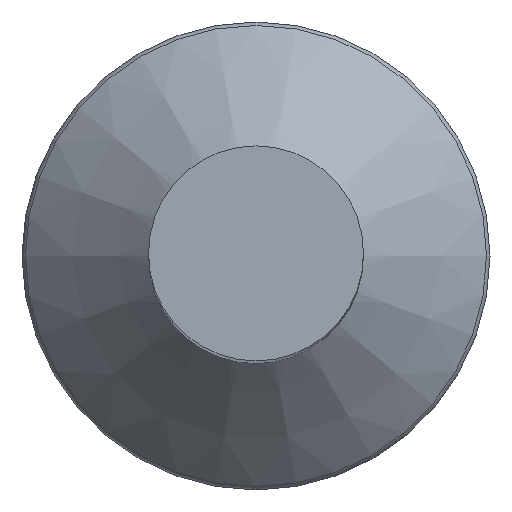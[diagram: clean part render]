
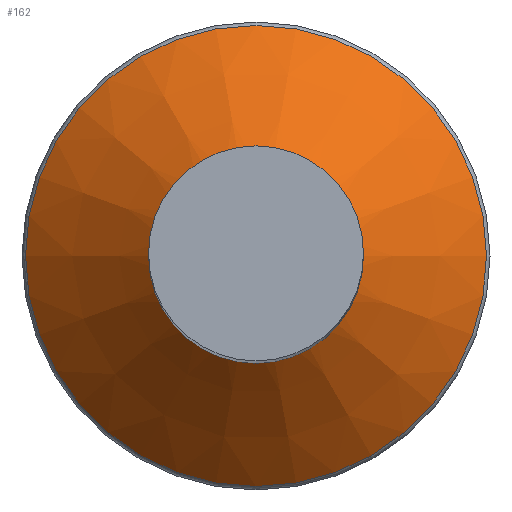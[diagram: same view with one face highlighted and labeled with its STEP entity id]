
A CAD part, top view. The second image highlights one B-rep face of the part: STEP entity #162.
In plain terms, the highlighted conical face has half-angle 45 degrees and reference radius 0.85 mm.
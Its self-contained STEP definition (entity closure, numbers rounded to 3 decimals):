
#61 = PLANE('',#62);
#62 = AXIS2_PLACEMENT_3D('',#63,#64,#65);
#63 = CARTESIAN_POINT('',(0.,0.,-1.5));
#64 = DIRECTION('',(0.,0.,1.));
#65 = DIRECTION('',(1.,0.,-0.));
#130 = EDGE_CURVE('',#131,#131,#133,.T.);
#131 = VERTEX_POINT('',#132);
#132 = CARTESIAN_POINT('',(0.85,0.,-1.5));
#133 = SURFACE_CURVE('',#134,(#139,#146),.PCURVE_S1.);
#134 = CIRCLE('',#135,0.85);
#135 = AXIS2_PLACEMENT_3D('',#136,#137,#138);
#136 = CARTESIAN_POINT('',(0.,0.,-1.5));
#137 = DIRECTION('',(0.,0.,1.));
#138 = DIRECTION('',(1.,0.,-0.));
#139 = PCURVE('',#61,#140);
#140 = DEFINITIONAL_REPRESENTATION('',(#141),#145);
#141 = CIRCLE('',#142,0.85);
#142 = AXIS2_PLACEMENT_2D('',#143,#144);
#143 = CARTESIAN_POINT('',(0.,0.));
#144 = DIRECTION('',(1.,0.));
#145 = ( GEOMETRIC_REPRESENTATION_CONTEXT(2) 
PARAMETRIC_REPRESENTATION_CONTEXT() REPRESENTATION_CONTEXT('2D SPACE',''
  ) );
#146 = PCURVE('',#147,#152);
#147 = CONICAL_SURFACE('',#148,0.85,0.785);
#148 = AXIS2_PLACEMENT_3D('',#149,#150,#151);
#149 = CARTESIAN_POINT('',(0.,0.,-1.5));
#150 = DIRECTION('',(0.,0.,1.));
#151 = DIRECTION('',(1.,0.,-0.));
#152 = DEFINITIONAL_REPRESENTATION('',(#153),#157);
#153 = LINE('',#154,#155);
#154 = CARTESIAN_POINT('',(0.,0.));
#155 = VECTOR('',#156,1.);
#156 = DIRECTION('',(1.,0.));
#157 = ( GEOMETRIC_REPRESENTATION_CONTEXT(2) 
PARAMETRIC_REPRESENTATION_CONTEXT() REPRESENTATION_CONTEXT('2D SPACE',''
  ) );
#162 = ADVANCED_FACE('',(#163),#147,.T.);
#163 = FACE_BOUND('',#164,.T.);
#164 = EDGE_LOOP('',(#165,#166,#189,#216));
#165 = ORIENTED_EDGE('',*,*,#130,.T.);
#166 = ORIENTED_EDGE('',*,*,#167,.T.);
#167 = EDGE_CURVE('',#131,#168,#170,.T.);
#168 = VERTEX_POINT('',#169);
#169 = CARTESIAN_POINT('',(2.158,0.,-0.192));
#170 = SEAM_CURVE('',#171,(#175,#182),.PCURVE_S1.);
#171 = LINE('',#172,#173);
#172 = CARTESIAN_POINT('',(0.85,0.,-1.5));
#173 = VECTOR('',#174,1.);
#174 = DIRECTION('',(0.707,0.,0.707));
#175 = PCURVE('',#147,#176);
#176 = DEFINITIONAL_REPRESENTATION('',(#177),#181);
#177 = LINE('',#178,#179);
#178 = CARTESIAN_POINT('',(0.,0.));
#179 = VECTOR('',#180,1.);
#180 = DIRECTION('',(0.,1.));
#181 = ( GEOMETRIC_REPRESENTATION_CONTEXT(2) 
PARAMETRIC_REPRESENTATION_CONTEXT() REPRESENTATION_CONTEXT('2D SPACE',''
  ) );
#182 = PCURVE('',#147,#183);
#183 = DEFINITIONAL_REPRESENTATION('',(#184),#188);
#184 = LINE('',#185,#186);
#185 = CARTESIAN_POINT('',(6.283,0.));
#186 = VECTOR('',#187,1.);
#187 = DIRECTION('',(0.,1.));
#188 = ( GEOMETRIC_REPRESENTATION_CONTEXT(2) 
PARAMETRIC_REPRESENTATION_CONTEXT() REPRESENTATION_CONTEXT('2D SPACE',''
  ) );
#189 = ORIENTED_EDGE('',*,*,#190,.F.);
#190 = EDGE_CURVE('',#168,#168,#191,.T.);
#191 = SURFACE_CURVE('',#192,(#197,#204),.PCURVE_S1.);
#192 = CIRCLE('',#193,2.158);
#193 = AXIS2_PLACEMENT_3D('',#194,#195,#196);
#194 = CARTESIAN_POINT('',(0.,0.,-0.192));
#195 = DIRECTION('',(0.,0.,1.));
#196 = DIRECTION('',(1.,0.,-0.));
#197 = PCURVE('',#147,#198);
#198 = DEFINITIONAL_REPRESENTATION('',(#199),#203);
#199 = LINE('',#200,#201);
#200 = CARTESIAN_POINT('',(0.,1.308));
#201 = VECTOR('',#202,1.);
#202 = DIRECTION('',(1.,0.));
#203 = ( GEOMETRIC_REPRESENTATION_CONTEXT(2) 
PARAMETRIC_REPRESENTATION_CONTEXT() REPRESENTATION_CONTEXT('2D SPACE',''
  ) );
#204 = PCURVE('',#205,#210);
#205 = TOROIDAL_SURFACE('',#206,2.078,0.113);
#206 = AXIS2_PLACEMENT_3D('',#207,#208,#209);
#207 = CARTESIAN_POINT('',(0.,0.,-0.113));
#208 = DIRECTION('',(-0.,-0.,-1.));
#209 = DIRECTION('',(1.,0.,-0.));
#210 = DEFINITIONAL_REPRESENTATION('',(#211),#215);
#211 = LINE('',#212,#213);
#212 = CARTESIAN_POINT('',(-0.,7.069));
#213 = VECTOR('',#214,1.);
#214 = DIRECTION('',(-1.,0.));
#215 = ( GEOMETRIC_REPRESENTATION_CONTEXT(2) 
PARAMETRIC_REPRESENTATION_CONTEXT() REPRESENTATION_CONTEXT('2D SPACE',''
  ) );
#216 = ORIENTED_EDGE('',*,*,#167,.F.);
